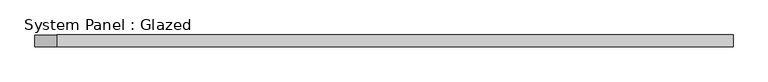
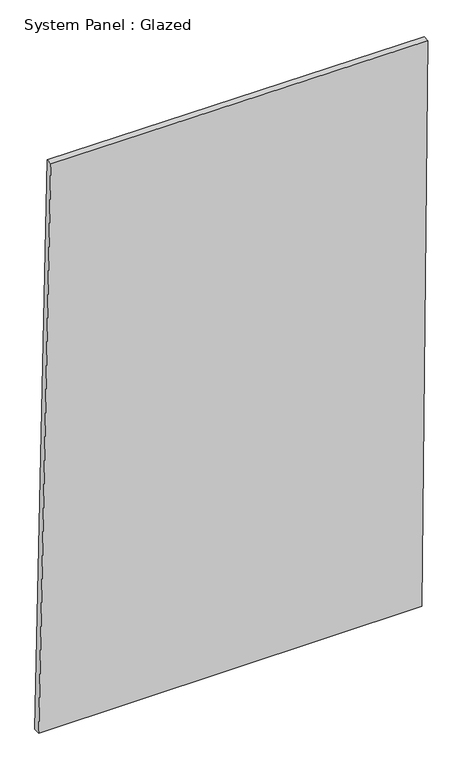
"""IFC4 building model written with IfcOpenShell, lengths in millimetres: plate geometry, System Panel : Glazed."""

from ifc_helpers import new_model, si_unit, frame, origin, place, context, project, spatial, polyline, outline, extrude, source, transform, mapped, element, save


def system_panel_glazed_d099ec71(model_context):
    return source(origin(), model_context, "Body", "SweptSolid", [
        extrude(outline(polyline([(0.0, -750.1638369), (0.0, 727.0452662), (2295.6686254, 750.1638369), (2304.02531, -703.4827745), (0.0, -750.1638369)])), frame((0.0, -49.5, 0.0), z_axis=(0.0, 1.0, 0.0), x_axis=(0.0, 0.0, 1.0)), (0.0, 0.0, 1.0), 25.0),
    ])


if __name__ == "__main__":
    model = new_model("IFC4")
    model_context = context("Model", 3, world=origin())
    ifc_project = project(units=[si_unit("LENGTHUNIT", "METRE", prefix="MILLI")], contexts=[model_context])
    site = spatial("IfcSite", under=ifc_project)
    building = spatial("IfcBuilding", under=site)
    placement = place(None, origin())
    system_panel_glazed_shape = system_panel_glazed_d099ec71(model_context)
    element("IfcPlate", 1, ObjectType="System Panel : Glazed", at=placement, inside=building, context=model_context, shape_type="MappedRepresentation", body=[
        mapped(system_panel_glazed_shape, transform((0.0, 0.0, 0.0), x_axis=(1.0, 0.0, 0.0), y_axis=(0.0, 1.0, 0.0), z_axis=(0.0, 0.0, 1.0))),
    ])
    save(model, "model.ifc")
